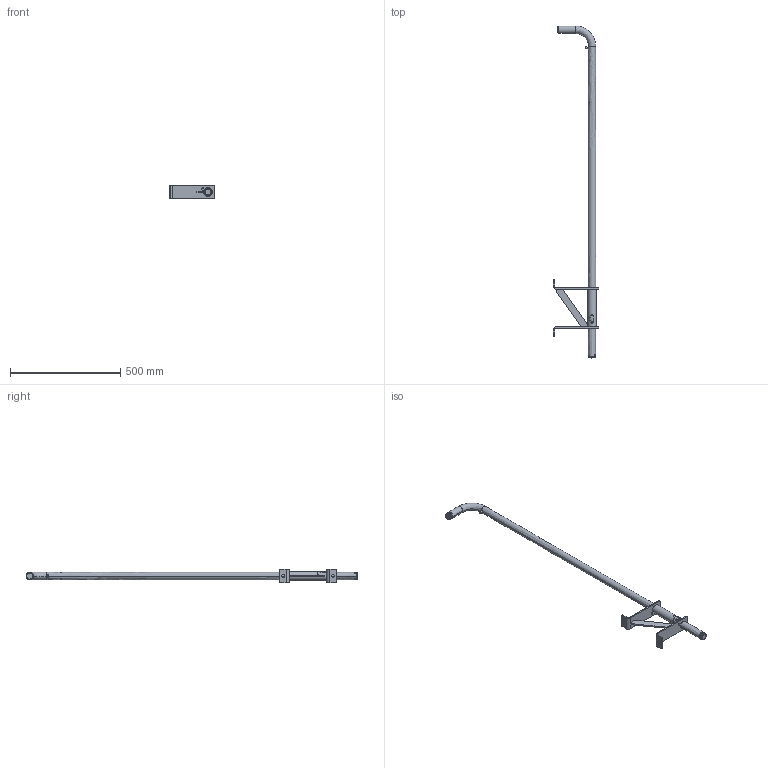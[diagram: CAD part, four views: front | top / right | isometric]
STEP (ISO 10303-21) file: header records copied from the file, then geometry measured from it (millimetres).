
FILE_DESCRIPTION((''),'2;1');
FILE_NAME('51290883_ASM','2019-01-07T',('slc'),('HUBER SE'),'PRO/ENGINEER BY PARAMETRIC TECHNOLOGY CORPORATION, 2017170','PRO/ENGINEER BY PARAMETRIC TECHNOLOGY CORPORATION, 2017170','');
FILE_SCHEMA(('AUTOMOTIVE_DESIGN { 1 0 10303 214 1 1 1 1 }'));
Length unit declared in the file: millimetre
Products named in the file (4): 50420127-600; 50295285-600; 702979; 51290883_ASM
Assembly tree (4 placements, depth 2):
  51290883_ASM
    50420127-600
    50295285-600
    702979  x2
Bounding box: 205 x 1504.8 x 60 mm (x, y, z)
Volume: 240439.7 mm3; surface area: 429505.2 mm2
Topology: 3 solids, 4 shells, 153 faces, 371 edges, 238 vertices
Faces by surface type: plane 67, cylinder 58, cone 16, bspline 12
Entity records: 11654 total; most frequent: CARTESIAN_POINT 6621, DIRECTION 655, ORIENTED_EDGE 618, EDGE_CURVE 313, PROPERTY_DEFINITION 264, REPRESENTATION 261, PROPERTY_DEFINITION_REPRESENTATION 261, AXIS2_PLACEMENT_3D 239
